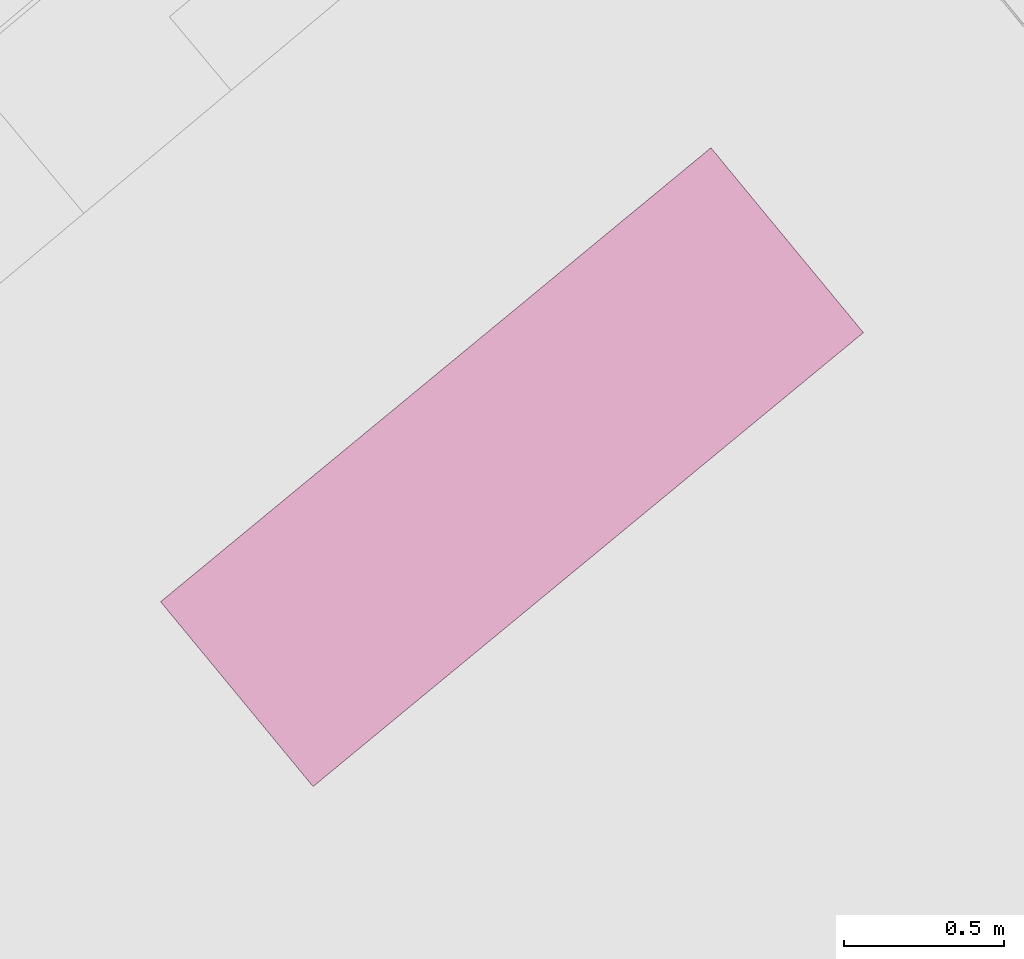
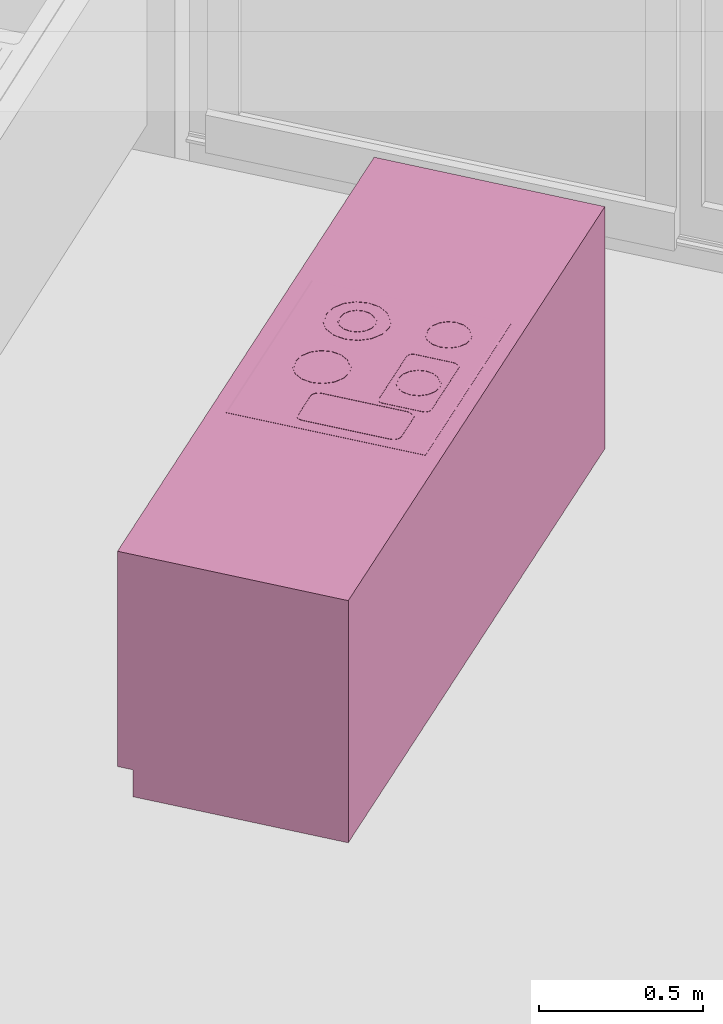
# One storey, part 60 of 61: 1 furniture element.
"""IFC4 building model written with IfcOpenShell, lengths in metres."""

from ifc_helpers import new_model, entity, si_unit, converted_unit, derived_unit, direction, frame, origin_with_axes, place, context, subcontext, project, spatial, polygons, source, transform, mapped, type_object, element, save


model = new_model("IFC4")

# Units and contexts
model_context = context("Model", 3, precision=1e-05, world=origin_with_axes(), true_north=direction((0.0, 1.0)))
body_context = subcontext(model_context, "Body", "Model", "MODEL_VIEW")
ifc_project = project(units=[si_unit("LENGTHUNIT", "METRE"), si_unit("AREAUNIT", "SQUARE_METRE"), si_unit("VOLUMEUNIT", "CUBIC_METRE"), converted_unit("PLANEANGLEUNIT", "DEGREE", entity("IfcPlaneAngleMeasure", 0.0174532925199), si_unit("PLANEANGLEUNIT", "RADIAN"), dimensions=[0, 0, 0, 0, 0, 0, 0]), converted_unit("TIMEUNIT", "Year", entity("IfcTimeMeasure", 31556926.0), si_unit("TIMEUNIT", "SECOND"), dimensions=[0, 0, 1, 0, 0, 0, 0]), si_unit("MASSUNIT", "GRAM", prefix="KILO"), si_unit("THERMODYNAMICTEMPERATUREUNIT", "DEGREE_CELSIUS"), si_unit("LUMINOUSINTENSITYUNIT", "LUMEN"), si_unit("ENERGYUNIT", "JOULE", prefix="MEGA"), derived_unit("THERMALCONDUCTANCEUNIT", [(si_unit("POWERUNIT", "WATT"), 1), (si_unit("LENGTHUNIT", "METRE"), -1), (si_unit("THERMODYNAMICTEMPERATUREUNIT", "KELVIN"), -1)]), derived_unit("SPECIFICHEATCAPACITYUNIT", [(si_unit("ENERGYUNIT", "JOULE"), 1), (si_unit("MASSUNIT", "GRAM", prefix="KILO"), -1), (si_unit("THERMODYNAMICTEMPERATUREUNIT", "KELVIN"), -1)]), derived_unit("MASSDENSITYUNIT", [(si_unit("MASSUNIT", "GRAM", prefix="KILO"), 1), (si_unit("VOLUMEUNIT", "CUBIC_METRE"), -1)])], contexts=[model_context])

# Site, building, storey, space
site_placement = place(None, frame((-0.00153261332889, -0.00661245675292, 0.0), z_axis=(0.0, 0.0, 1.0), x_axis=(1.0, 0.0, 0.0)))
site = spatial("IfcSite", under=ifc_project, at=site_placement, Name="Gelände", CompositionType="ELEMENT")
building_placement = place(site_placement, origin_with_axes())
building = spatial("IfcBuilding", under=site, at=building_placement, Name="Gebäude", CompositionType="ELEMENT")
storey_placement = place(building_placement, frame((0.0, 0.0, 5.7), z_axis=(0.0, 0.0, 1.0), x_axis=(1.0, 0.0, 0.0)))
storey = spatial("IfcBuildingStorey", under=building, at=storey_placement, Name="DG1", CompositionType="ELEMENT", Elevation=5.7)
space_placement = place(storey_placement, frame((12.8063322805, 20.3315828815, 0.22), z_axis=(0.0, 0.0, 1.0), x_axis=(-0.641209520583, 0.767365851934, 0.0)))
space = spatial("IfcSpace", under=storey, at=space_placement, CompositionType="ELEMENT", PredefinedType="NOTDEFINED")

# Furniture
furniture_type = type_object("IfcFurnitureType", Name="Konzeptküche 26", AssemblyPlace="NOTDEFINED", PredefinedType="NOTDEFINED")
shared_shape = source(origin_with_axes(), body_context, "Body", "Tessellation", [
    polygons([(0.451386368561, 0.0111886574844, 0.0), (2.6840690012, -0.00300580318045, 0.0), (2.6840690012, -0.00300580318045, 0.1), (0.451386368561, 0.0111886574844, 0.1), (0.455836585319, 0.711174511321, 0.0), (2.68851921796, 0.696980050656, 0.0), (2.68851921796, 0.696980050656, 0.1), (0.455836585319, 0.711174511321, 0.1)], [[[1, 2, 3, 4]], [[1, 5, 6, 2]], [[2, 6, 7, 3]], [[4, 3, 7, 8]], [[5, 1, 4, 8]], [[6, 5, 8, 7]]], closed=True),
    polygons([(0.451386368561, 0.0111886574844, 0.85), (2.6840690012, -0.00300580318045, 0.85), (2.6840690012, -0.00300580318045, 0.9), (0.451386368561, 0.0111886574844, 0.9), (0.456154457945, 0.76117350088, 0.85), (2.68883709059, 0.746979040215, 0.85), (2.68883709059, 0.746979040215, 0.9), (0.456154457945, 0.76117350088, 0.9)], [[[1, 2, 3, 4]], [[1, 5, 6, 2]], [[2, 6, 7, 3]], [[4, 3, 7, 8]], [[5, 1, 4, 8]], [[6, 5, 8, 7]]], closed=True),
    polygons([(0.451386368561, 0.0111886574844, 0.1), (2.6840690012, -0.00300580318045, 0.1), (2.6840690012, -0.00300580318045, 0.85), (0.451386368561, 0.0111886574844, 0.85), (0.456154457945, 0.76117350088, 0.1), (2.68883709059, 0.746979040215, 0.1), (2.68883709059, 0.746979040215, 0.85), (0.456154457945, 0.76117350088, 0.85)], [[[1, 2, 3, 4]], [[1, 5, 6, 2]], [[2, 6, 7, 3]], [[4, 3, 7, 8]], [[5, 1, 4, 8]], [[6, 5, 8, 7]]], closed=True),
    polygons([(2.01007115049, 0.701293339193, 0.9), (2.00593880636, 0.0513064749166, 0.9), (1.25595396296, 0.0560745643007, 0.9), (1.26008630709, 0.706061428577, 0.9), (2.01007115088, 0.70129333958, 0.9008), (2.00593880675, 0.0513064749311, 0.9008), (1.25595396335, 0.0560745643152, 0.9008), (1.26008630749, 0.706061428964, 0.9008), (2.00322248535, 0.694531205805, 0.901999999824), (1.99917667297, 0.0581551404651, 0.901999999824), (1.26280262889, 0.0628366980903, 0.901999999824), (1.26684844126, 0.69921276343, 0.901999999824)], [[[1, 2, 3, 4]], [[2, 1, 5, 6]], [[3, 2, 6, 7]], [[4, 3, 7, 8]], [[1, 4, 8, 5]], [[6, 5, 9, 10]], [[7, 6, 10, 11]], [[8, 7, 11, 12]], [[5, 8, 12, 9]], [[11, 10, 9, 12]]], closed=True),
    polygons([(1.95268579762, 0.208298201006, 0.902), (1.94734355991, 0.236077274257, 0.902), (1.94734355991, 0.236077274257, 0.903), (1.95268579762, 0.208298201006, 0.903), (1.9469907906, 0.180589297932, 0.902), (1.93112555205, 0.157168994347, 0.902), (1.9075054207, 0.141602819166, 0.902), (1.87972634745, 0.136260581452, 0.902), (1.85201744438, 0.141955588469, 0.902), (1.82859714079, 0.157820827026, 0.902), (1.81303096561, 0.181440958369, 0.902), (1.8076887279, 0.20922003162, 0.902), (1.81338373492, 0.236928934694, 0.902), (1.82924897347, 0.260349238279, 0.902), (1.85286910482, 0.275915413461, 0.902), (1.88064817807, 0.281257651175, 0.902), (1.90835708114, 0.275562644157, 0.902), (1.93177738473, 0.259697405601, 0.902), (1.94768589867, 0.208329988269, 0.902), (1.94271209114, 0.234193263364, 0.902), (1.92821944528, 0.256184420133, 0.902), (1.90641433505, 0.270955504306, 0.902), (1.8806163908, 0.276257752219, 0.902), (1.85475311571, 0.271283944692, 0.902), (1.83276195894, 0.256791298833, 0.902), (1.81799087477, 0.234986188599, 0.902), (1.81268862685, 0.209188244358, 0.902), (1.81766243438, 0.183324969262, 0.902), (1.83215508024, 0.161333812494, 0.902), (1.85396019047, 0.146562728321, 0.902), (1.87975813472, 0.141260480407, 0.902), (1.90562140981, 0.146234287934, 0.902), (1.92761256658, 0.160726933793, 0.902), (1.94238365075, 0.182532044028, 0.902), (1.93177738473, 0.259697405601, 0.903), (1.90835708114, 0.275562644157, 0.903), (1.88064817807, 0.281257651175, 0.903), (1.85286910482, 0.275915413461, 0.903), (1.82924897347, 0.260349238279, 0.903), (1.81338373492, 0.236928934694, 0.903), (1.8076887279, 0.20922003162, 0.903), (1.81303096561, 0.181440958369, 0.903), (1.82859714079, 0.157820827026, 0.903), (1.85201744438, 0.141955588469, 0.903), (1.87972634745, 0.136260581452, 0.903), (1.9075054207, 0.141602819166, 0.903), (1.93112555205, 0.157168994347, 0.903), (1.9469907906, 0.180589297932, 0.903), (1.94768589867, 0.208329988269, 0.903), (1.94238365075, 0.182532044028, 0.903), (1.92761256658, 0.160726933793, 0.903), (1.90562140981, 0.146234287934, 0.903), (1.87975813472, 0.141260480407, 0.903), (1.85396019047, 0.146562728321, 0.903), (1.83215508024, 0.161333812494, 0.903), (1.81766243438, 0.183324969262, 0.903), (1.81268862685, 0.209188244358, 0.903), (1.81799087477, 0.234986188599, 0.903), (1.83276195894, 0.256791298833, 0.903), (1.85475311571, 0.271283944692, 0.903), (1.8806163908, 0.276257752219, 0.903), (1.90641433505, 0.270955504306, 0.903), (1.92821944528, 0.256184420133, 0.903), (1.94271209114, 0.234193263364, 0.903)], [[[1, 2, 3, 4]], [[1, 5, 6, 7, 8, 9, 10, 11, 12, 13, 14, 15, 16, 17, 18, 2], [19, 20, 21, 22, 23, 24, 25, 26, 27, 28, 29, 30, 31, 32, 33, 34]], [[2, 18, 35, 3]], [[4, 3, 35, 36, 37, 38, 39, 40, 41, 42, 43, 44, 45, 46, 47, 48], [49, 50, 51, 52, 53, 54, 55, 56, 57, 58, 59, 60, 61, 62, 63, 64]], [[5, 1, 4, 48]], [[6, 5, 48, 47]], [[7, 6, 47, 46]], [[8, 7, 46, 45]], [[9, 8, 45, 44]], [[10, 9, 44, 43]], [[11, 10, 43, 42]], [[12, 11, 42, 41]], [[13, 12, 41, 40]], [[14, 13, 40, 39]], [[15, 14, 39, 38]], [[16, 15, 38, 37]], [[17, 16, 37, 36]], [[18, 17, 36, 35]], [[20, 19, 49, 64]], [[21, 20, 64, 63]], [[22, 21, 63, 62]], [[23, 22, 62, 61]], [[24, 23, 61, 60]], [[25, 24, 60, 59]], [[26, 25, 59, 58]], [[27, 26, 58, 57]], [[28, 27, 57, 56]], [[29, 28, 56, 55]], [[30, 29, 55, 54]], [[31, 30, 54, 53]], [[32, 31, 53, 52]], [[33, 32, 52, 51]], [[34, 33, 51, 50]], [[19, 34, 50, 49]]], closed=True),
    polygons([(1.9127590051, 0.495207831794, 0.902), (1.90833784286, 0.518197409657, 0.902), (1.90833784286, 0.518197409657, 0.903), (1.9127590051, 0.495207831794, 0.903), (1.90804589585, 0.472276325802, 0.902), (1.89491604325, 0.452894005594, 0.902), (1.87536834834, 0.44001165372, 0.902), (1.85237877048, 0.435590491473, 0.902), (1.82944726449, 0.440303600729, 0.902), (1.81006494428, 0.453433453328, 0.902), (1.7971825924, 0.472981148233, 0.902), (1.79276143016, 0.495970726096, 0.902), (1.79747453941, 0.518902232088, 0.902), (1.81060439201, 0.538284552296, 0.902), (1.83015208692, 0.551166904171, 0.902), (1.85314166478, 0.555588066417, 0.902), (1.87607317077, 0.550874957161, 0.902), (1.89545549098, 0.537745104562, 0.902), (1.90775910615, 0.495239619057, 0.902), (1.90370637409, 0.516313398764, 0.902), (1.89189755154, 0.534232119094, 0.902), (1.87413042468, 0.546267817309, 0.902), (1.85310987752, 0.550588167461, 0.902), (1.83203609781, 0.546535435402, 0.902), (1.81411737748, 0.53472661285, 0.902), (1.80208167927, 0.516959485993, 0.902), (1.79776132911, 0.495938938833, 0.902), (1.80181406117, 0.474865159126, 0.902), (1.81362288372, 0.456946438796, 0.902), (1.83139001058, 0.444910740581, 0.902), (1.85241055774, 0.440590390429, 0.902), (1.87348433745, 0.444643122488, 0.902), (1.89140305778, 0.45645194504, 0.902), (1.90343875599, 0.474219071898, 0.902), (1.89545549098, 0.537745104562, 0.903), (1.87607317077, 0.550874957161, 0.903), (1.85314166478, 0.555588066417, 0.903), (1.83015208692, 0.551166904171, 0.903), (1.81060439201, 0.538284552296, 0.903), (1.79747453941, 0.518902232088, 0.903), (1.79276143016, 0.495970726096, 0.903), (1.7971825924, 0.472981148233, 0.903), (1.81006494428, 0.453433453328, 0.903), (1.82944726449, 0.440303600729, 0.903), (1.85237877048, 0.435590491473, 0.903), (1.87536834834, 0.44001165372, 0.903), (1.89491604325, 0.452894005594, 0.903), (1.90804589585, 0.472276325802, 0.903), (1.90775910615, 0.495239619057, 0.903), (1.90343875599, 0.474219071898, 0.903), (1.89140305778, 0.45645194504, 0.903), (1.87348433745, 0.444643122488, 0.903), (1.85241055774, 0.440590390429, 0.903), (1.83139001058, 0.444910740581, 0.903), (1.81362288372, 0.456946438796, 0.903), (1.80181406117, 0.474865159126, 0.903), (1.79776132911, 0.495938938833, 0.903), (1.80208167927, 0.516959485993, 0.903), (1.81411737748, 0.53472661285, 0.903), (1.83203609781, 0.546535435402, 0.903), (1.85310987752, 0.550588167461, 0.903), (1.87413042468, 0.546267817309, 0.903), (1.89189755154, 0.534232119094, 0.903), (1.90370637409, 0.516313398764, 0.903)], [[[1, 2, 3, 4]], [[1, 5, 6, 7, 8, 9, 10, 11, 12, 13, 14, 15, 16, 17, 18, 2], [19, 20, 21, 22, 23, 24, 25, 26, 27, 28, 29, 30, 31, 32, 33, 34]], [[2, 18, 35, 3]], [[4, 3, 35, 36, 37, 38, 39, 40, 41, 42, 43, 44, 45, 46, 47, 48], [49, 50, 51, 52, 53, 54, 55, 56, 57, 58, 59, 60, 61, 62, 63, 64]], [[5, 1, 4, 48]], [[6, 5, 48, 47]], [[7, 6, 47, 46]], [[8, 7, 46, 45]], [[9, 8, 45, 44]], [[10, 9, 44, 43]], [[11, 10, 43, 42]], [[12, 11, 42, 41]], [[13, 12, 41, 40]], [[14, 13, 40, 39]], [[15, 14, 39, 38]], [[16, 15, 38, 37]], [[17, 16, 37, 36]], [[18, 17, 36, 35]], [[20, 19, 49, 64]], [[21, 20, 64, 63]], [[22, 21, 63, 62]], [[23, 22, 62, 61]], [[24, 23, 61, 60]], [[25, 24, 60, 59]], [[26, 25, 59, 58]], [[27, 26, 58, 57]], [[28, 27, 57, 56]], [[29, 28, 56, 55]], [[30, 29, 55, 54]], [[31, 30, 54, 53]], [[32, 31, 53, 52]], [[33, 32, 52, 51]], [[34, 33, 51, 50]], [[19, 34, 50, 49]]], closed=True),
    polygons([(1.95775809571, 0.494921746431, 0.902), (1.95002106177, 0.535153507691, 0.902), (1.95002106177, 0.535153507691, 0.903), (1.95775809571, 0.494921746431, 0.903), (1.94951015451, 0.454791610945, 0.902), (1.92653291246, 0.420872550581, 0.902), (1.89232444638, 0.3983284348, 0.902), (1.85209268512, 0.39059140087, 0.902), (1.81196254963, 0.398839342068, 0.902), (1.77804348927, 0.421816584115, 0.902), (1.75549937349, 0.456025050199, 0.902), (1.74776233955, 0.496256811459, 0.902), (1.75601028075, 0.536386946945, 0.902), (1.7789875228, 0.57030600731, 0.902), (1.81319598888, 0.59285012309, 0.902), (1.85342775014, 0.60058715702, 0.902), (1.89355788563, 0.592339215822, 0.902), (1.92747694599, 0.569361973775, 0.902), (1.95275819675, 0.494953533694, 0.902), (1.94538959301, 0.533269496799, 0.902), (1.92391900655, 0.565848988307, 0.902), (1.89161513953, 0.587732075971, 0.902), (1.85339596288, 0.595587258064, 0.902), (1.81507999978, 0.588218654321, 0.902), (1.78250050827, 0.566748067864, 0.902), (1.7606174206, 0.53444420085, 0.902), (1.75276223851, 0.496225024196, 0.902), (1.76013084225, 0.457909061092, 0.902), (1.78160142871, 0.425329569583, 0.902), (1.81390529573, 0.403446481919, 0.902), (1.85212447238, 0.395591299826, 0.902), (1.89044043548, 0.402959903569, 0.902), (1.92301992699, 0.424430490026, 0.902), (1.94490301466, 0.456734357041, 0.902), (1.92747694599, 0.569361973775, 0.903), (1.89355788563, 0.592339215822, 0.903), (1.85342775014, 0.60058715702, 0.903), (1.81319598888, 0.59285012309, 0.903), (1.7789875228, 0.57030600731, 0.903), (1.75601028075, 0.536386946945, 0.903), (1.74776233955, 0.496256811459, 0.903), (1.75549937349, 0.456025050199, 0.903), (1.77804348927, 0.421816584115, 0.903), (1.81196254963, 0.398839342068, 0.903), (1.85209268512, 0.39059140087, 0.903), (1.89232444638, 0.3983284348, 0.903), (1.92653291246, 0.420872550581, 0.903), (1.94951015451, 0.454791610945, 0.903), (1.95275819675, 0.494953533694, 0.903), (1.94490301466, 0.456734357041, 0.903), (1.92301992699, 0.424430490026, 0.903), (1.89044043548, 0.402959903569, 0.903), (1.85212447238, 0.395591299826, 0.903), (1.81390529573, 0.403446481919, 0.903), (1.78160142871, 0.425329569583, 0.903), (1.76013084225, 0.457909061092, 0.903), (1.75276223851, 0.496225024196, 0.903), (1.7606174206, 0.53444420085, 0.903), (1.78250050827, 0.566748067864, 0.903), (1.81507999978, 0.588218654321, 0.903), (1.85339596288, 0.595587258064, 0.903), (1.89161513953, 0.587732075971, 0.903), (1.92391900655, 0.565848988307, 0.903), (1.94538959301, 0.533269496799, 0.903)], [[[1, 2, 3, 4]], [[1, 5, 6, 7, 8, 9, 10, 11, 12, 13, 14, 15, 16, 17, 18, 2], [19, 20, 21, 22, 23, 24, 25, 26, 27, 28, 29, 30, 31, 32, 33, 34]], [[2, 18, 35, 3]], [[4, 3, 35, 36, 37, 38, 39, 40, 41, 42, 43, 44, 45, 46, 47, 48], [49, 50, 51, 52, 53, 54, 55, 56, 57, 58, 59, 60, 61, 62, 63, 64]], [[5, 1, 4, 48]], [[6, 5, 48, 47]], [[7, 6, 47, 46]], [[8, 7, 46, 45]], [[9, 8, 45, 44]], [[10, 9, 44, 43]], [[11, 10, 43, 42]], [[12, 11, 42, 41]], [[13, 12, 41, 40]], [[14, 13, 40, 39]], [[15, 14, 39, 38]], [[16, 15, 38, 37]], [[17, 16, 37, 36]], [[18, 17, 36, 35]], [[20, 19, 49, 64]], [[21, 20, 64, 63]], [[22, 21, 63, 62]], [[23, 22, 62, 61]], [[24, 23, 61, 60]], [[25, 24, 60, 59]], [[26, 25, 59, 58]], [[27, 26, 58, 57]], [[28, 27, 57, 56]], [[29, 28, 56, 55]], [[30, 29, 55, 54]], [[31, 30, 54, 53]], [[32, 31, 53, 52]], [[33, 32, 52, 51]], [[34, 33, 51, 50]], [[19, 34, 50, 49]]], closed=True),
    polygons([(1.67867067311, 0.206790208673, 0.902), (1.67351265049, 0.233611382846, 0.902), (1.67351265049, 0.233611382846, 0.903), (1.67867067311, 0.206790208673, 0.903), (1.67317204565, 0.180036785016, 0.902), (1.65785388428, 0.157424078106, 0.902), (1.63504824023, 0.142394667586, 0.902), (1.60822706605, 0.137236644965, 0.902), (1.5814736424, 0.142735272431, 0.902), (1.55886093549, 0.158053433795, 0.902), (1.54383152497, 0.180859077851, 0.902), (1.53867350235, 0.207680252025, 0.902), (1.54417212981, 0.234433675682, 0.902), (1.55949029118, 0.257046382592, 0.902), (1.58229593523, 0.272075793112, 0.902), (1.60911710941, 0.277233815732, 0.902), (1.63587053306, 0.271735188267, 0.902), (1.65848323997, 0.256417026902, 0.902), (1.67367077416, 0.206821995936, 0.902), (1.66888118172, 0.231727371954, 0.902), (1.65492530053, 0.252904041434, 0.902), (1.63392778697, 0.267128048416, 0.902), (1.60908532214, 0.272233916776, 0.902), (1.58417994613, 0.267444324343, 0.902), (1.56300327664, 0.253488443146, 0.902), (1.54877926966, 0.232490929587, 0.902), (1.5436734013, 0.207648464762, 0.902), (1.54846299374, 0.182743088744, 0.902), (1.56241887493, 0.161566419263, 0.902), (1.58341638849, 0.147342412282, 0.902), (1.60825885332, 0.142236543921, 0.902), (1.63316422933, 0.147026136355, 0.902), (1.65434089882, 0.160982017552, 0.902), (1.6685649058, 0.181979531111, 0.902), (1.65848323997, 0.256417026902, 0.903), (1.63587053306, 0.271735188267, 0.903), (1.60911710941, 0.277233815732, 0.903), (1.58229593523, 0.272075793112, 0.903), (1.55949029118, 0.257046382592, 0.903), (1.54417212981, 0.234433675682, 0.903), (1.53867350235, 0.207680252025, 0.903), (1.54383152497, 0.180859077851, 0.903), (1.55886093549, 0.158053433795, 0.903), (1.5814736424, 0.142735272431, 0.903), (1.60822706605, 0.137236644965, 0.903), (1.63504824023, 0.142394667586, 0.903), (1.65785388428, 0.157424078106, 0.903), (1.67317204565, 0.180036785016, 0.903), (1.67367077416, 0.206821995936, 0.903), (1.6685649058, 0.181979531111, 0.903), (1.65434089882, 0.160982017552, 0.903), (1.63316422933, 0.147026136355, 0.903), (1.60825885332, 0.142236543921, 0.903), (1.58341638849, 0.147342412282, 0.903), (1.56241887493, 0.161566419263, 0.903), (1.54846299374, 0.182743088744, 0.903), (1.5436734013, 0.207648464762, 0.903), (1.54877926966, 0.232490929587, 0.903), (1.56300327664, 0.253488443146, 0.903), (1.58417994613, 0.267444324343, 0.903), (1.60908532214, 0.272233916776, 0.903), (1.63392778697, 0.267128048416, 0.903), (1.65492530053, 0.252904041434, 0.903), (1.66888118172, 0.231727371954, 0.903)], [[[1, 2, 3, 4]], [[1, 5, 6, 7, 8, 9, 10, 11, 12, 13, 14, 15, 16, 17, 18, 2], [19, 20, 21, 22, 23, 24, 25, 26, 27, 28, 29, 30, 31, 32, 33, 34]], [[2, 18, 35, 3]], [[4, 3, 35, 36, 37, 38, 39, 40, 41, 42, 43, 44, 45, 46, 47, 48], [49, 50, 51, 52, 53, 54, 55, 56, 57, 58, 59, 60, 61, 62, 63, 64]], [[5, 1, 4, 48]], [[6, 5, 48, 47]], [[7, 6, 47, 46]], [[8, 7, 46, 45]], [[9, 8, 45, 44]], [[10, 9, 44, 43]], [[11, 10, 43, 42]], [[12, 11, 42, 41]], [[13, 12, 41, 40]], [[14, 13, 40, 39]], [[15, 14, 39, 38]], [[16, 15, 38, 37]], [[17, 16, 37, 36]], [[18, 17, 36, 35]], [[20, 19, 49, 64]], [[21, 20, 64, 63]], [[22, 21, 63, 62]], [[23, 22, 62, 61]], [[24, 23, 61, 60]], [[25, 24, 60, 59]], [[26, 25, 59, 58]], [[27, 26, 58, 57]], [[28, 27, 57, 56]], [[29, 28, 56, 55]], [[30, 29, 55, 54]], [[31, 30, 54, 53]], [[32, 31, 53, 52]], [[33, 32, 52, 51]], [[34, 33, 51, 50]], [[19, 34, 50, 49]]], closed=True),
    polygons([(1.67698381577, 0.511657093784, 0.902), (1.6703520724, 0.546141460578, 0.902), (1.6703520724, 0.546141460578, 0.903), (1.67698381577, 0.511657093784, 0.903), (1.66991415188, 0.477259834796, 0.902), (1.65021937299, 0.448186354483, 0.902), (1.62089783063, 0.428862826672, 0.902), (1.58641346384, 0.422231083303, 0.902), (1.55201620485, 0.429300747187, 0.902), (1.52294272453, 0.448995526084, 0.902), (1.50361919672, 0.478317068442, 0.902), (1.49698745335, 0.512801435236, 0.902), (1.50405711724, 0.547198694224, 0.902), (1.52375189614, 0.576272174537, 0.902), (1.55307343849, 0.595595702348, 0.902), (1.58755780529, 0.602227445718, 0.902), (1.62195506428, 0.595157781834, 0.902), (1.65102854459, 0.575463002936, 0.902), (1.67198391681, 0.511688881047, 0.902), (1.66572060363, 0.544257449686, 0.902), (1.64747060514, 0.571950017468, 0.902), (1.62001231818, 0.590550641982, 0.902), (1.58752601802, 0.597227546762, 0.902), (1.55495744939, 0.590964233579, 0.902), (1.5272648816, 0.572714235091, 0.902), (1.50866425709, 0.545255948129, 0.902), (1.50198735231, 0.512769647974, 0.902), (1.50825066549, 0.480201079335, 0.902), (1.52650066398, 0.452508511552, 0.902), (1.55395895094, 0.433907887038, 0.902), (1.5864452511, 0.427230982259, 0.902), (1.61901381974, 0.433494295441, 0.902), (1.64670638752, 0.451744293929, 0.902), (1.66530701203, 0.479202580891, 0.902), (1.65102854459, 0.575463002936, 0.903), (1.62195506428, 0.595157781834, 0.903), (1.58755780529, 0.602227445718, 0.903), (1.55307343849, 0.595595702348, 0.903), (1.52375189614, 0.576272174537, 0.903), (1.50405711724, 0.547198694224, 0.903), (1.49698745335, 0.512801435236, 0.903), (1.50361919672, 0.478317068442, 0.903), (1.52294272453, 0.448995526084, 0.903), (1.55201620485, 0.429300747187, 0.903), (1.58641346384, 0.422231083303, 0.903), (1.62089783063, 0.428862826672, 0.903), (1.65021937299, 0.448186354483, 0.903), (1.66991415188, 0.477259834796, 0.903), (1.67198391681, 0.511688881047, 0.903), (1.66530701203, 0.479202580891, 0.903), (1.64670638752, 0.451744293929, 0.903), (1.61901381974, 0.433494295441, 0.903), (1.5864452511, 0.427230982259, 0.903), (1.55395895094, 0.433907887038, 0.903), (1.52650066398, 0.452508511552, 0.903), (1.50825066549, 0.480201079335, 0.903), (1.50198735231, 0.512769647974, 0.903), (1.50866425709, 0.545255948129, 0.903), (1.5272648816, 0.572714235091, 0.903), (1.55495744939, 0.590964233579, 0.903), (1.58752601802, 0.597227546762, 0.903), (1.62001231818, 0.590550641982, 0.903), (1.64747060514, 0.571950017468, 0.903), (1.66572060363, 0.544257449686, 0.903)], [[[1, 2, 3, 4]], [[1, 5, 6, 7, 8, 9, 10, 11, 12, 13, 14, 15, 16, 17, 18, 2], [19, 20, 21, 22, 23, 24, 25, 26, 27, 28, 29, 30, 31, 32, 33, 34]], [[2, 18, 35, 3]], [[4, 3, 35, 36, 37, 38, 39, 40, 41, 42, 43, 44, 45, 46, 47, 48], [49, 50, 51, 52, 53, 54, 55, 56, 57, 58, 59, 60, 61, 62, 63, 64]], [[5, 1, 4, 48]], [[6, 5, 48, 47]], [[7, 6, 47, 46]], [[8, 7, 46, 45]], [[9, 8, 45, 44]], [[10, 9, 44, 43]], [[11, 10, 43, 42]], [[12, 11, 42, 41]], [[13, 12, 41, 40]], [[14, 13, 40, 39]], [[15, 14, 39, 38]], [[16, 15, 38, 37]], [[17, 16, 37, 36]], [[18, 17, 36, 35]], [[20, 19, 49, 64]], [[21, 20, 64, 63]], [[22, 21, 63, 62]], [[23, 22, 62, 61]], [[24, 23, 61, 60]], [[25, 24, 60, 59]], [[26, 25, 59, 58]], [[27, 26, 58, 57]], [[28, 27, 57, 56]], [[29, 28, 56, 55]], [[30, 29, 55, 54]], [[31, 30, 54, 53]], [[32, 31, 53, 52]], [[33, 32, 52, 51]], [[34, 33, 51, 50]], [[19, 34, 50, 49]]], closed=True),
    polygons([(1.72815115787, 0.294201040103, 0.902), (1.49030841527, 0.295713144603, 0.902), (1.49030841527, 0.295713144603, 0.903), (1.72815115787, 0.294201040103, 0.903), (1.73655937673, 0.292472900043, 0.902), (1.74366622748, 0.287658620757, 0.902), (1.7483897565, 0.280491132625, 0.902), (1.75001084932, 0.272061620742, 0.902), (1.74917517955, 0.140617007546, 0.902), (1.74744703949, 0.132208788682, 0.902), (1.7426327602, 0.125101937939, 0.902), (1.73546527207, 0.120378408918, 0.902), (1.72703576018, 0.118757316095, 0.902), (1.48919301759, 0.120269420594, 0.902), (1.48078479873, 0.121997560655, 0.902), (1.47367794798, 0.126811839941, 0.902), (1.46895441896, 0.133979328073, 0.902), (1.46733332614, 0.142408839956, 0.902), (1.46816899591, 0.273853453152, 0.902), (1.46989713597, 0.282261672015, 0.902), (1.47471141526, 0.289368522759, 0.902), (1.48187890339, 0.294092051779, 0.902), (1.72406760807, 0.123776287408, 0.902), (1.73173080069, 0.125250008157, 0.902), (1.738246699, 0.129544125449, 0.902), (1.74262331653, 0.136004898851, 0.902), (1.74419435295, 0.143648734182, 0.902), (1.74499187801, 0.269093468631, 0.902), (1.74351815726, 0.276756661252, 0.902), (1.73922403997, 0.283272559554, 0.902), (1.73276326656, 0.287649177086, 0.902), (1.72511943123, 0.289220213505, 0.902), (1.49327656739, 0.290694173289, 0.902), (1.48561337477, 0.28922045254, 0.902), (1.47909747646, 0.284926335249, 0.902), (1.47472085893, 0.278465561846, 0.902), (1.47314982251, 0.270821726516, 0.902), (1.47235229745, 0.145376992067, 0.902), (1.4738260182, 0.137713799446, 0.902), (1.47812013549, 0.131197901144, 0.902), (1.4845809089, 0.126821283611, 0.902), (1.49222474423, 0.125250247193, 0.902), (1.48187890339, 0.294092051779, 0.903), (1.47471141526, 0.289368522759, 0.903), (1.46989713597, 0.282261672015, 0.903), (1.46816899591, 0.273853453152, 0.903), (1.46733332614, 0.142408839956, 0.903), (1.46895441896, 0.133979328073, 0.903), (1.47367794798, 0.126811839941, 0.903), (1.48078479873, 0.121997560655, 0.903), (1.48919301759, 0.120269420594, 0.903), (1.72703576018, 0.118757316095, 0.903), (1.73546527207, 0.120378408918, 0.903), (1.7426327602, 0.125101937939, 0.903), (1.74744703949, 0.132208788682, 0.903), (1.74917517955, 0.140617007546, 0.903), (1.75001084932, 0.272061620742, 0.903), (1.7483897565, 0.280491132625, 0.903), (1.74366622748, 0.287658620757, 0.903), (1.73655937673, 0.292472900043, 0.903), (1.72406760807, 0.123776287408, 0.903), (1.49222474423, 0.125250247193, 0.903), (1.4845809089, 0.126821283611, 0.903), (1.47812013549, 0.131197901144, 0.903), (1.4738260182, 0.137713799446, 0.903), (1.47235229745, 0.145376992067, 0.903), (1.47314982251, 0.270821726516, 0.903), (1.47472085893, 0.278465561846, 0.903), (1.47909747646, 0.284926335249, 0.903), (1.48561337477, 0.28922045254, 0.903), (1.49327656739, 0.290694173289, 0.903), (1.72511943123, 0.289220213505, 0.903), (1.73276326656, 0.287649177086, 0.903), (1.73922403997, 0.283272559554, 0.903), (1.74351815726, 0.276756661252, 0.903), (1.74499187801, 0.269093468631, 0.903), (1.74419435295, 0.143648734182, 0.903), (1.74262331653, 0.136004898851, 0.903), (1.738246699, 0.129544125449, 0.903), (1.73173080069, 0.125250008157, 0.903)], [[[1, 2, 3, 4]], [[1, 5, 6, 7, 8, 9, 10, 11, 12, 13, 14, 15, 16, 17, 18, 19, 20, 21, 22, 2], [23, 24, 25, 26, 27, 28, 29, 30, 31, 32, 33, 34, 35, 36, 37, 38, 39, 40, 41, 42]], [[2, 22, 43, 3]], [[4, 3, 43, 44, 45, 46, 47, 48, 49, 50, 51, 52, 53, 54, 55, 56, 57, 58, 59, 60], [61, 62, 63, 64, 65, 66, 67, 68, 69, 70, 71, 72, 73, 74, 75, 76, 77, 78, 79, 80]], [[5, 1, 4, 60]], [[6, 5, 60, 59]], [[7, 6, 59, 58]], [[8, 7, 58, 57]], [[9, 8, 57, 56]], [[10, 9, 56, 55]], [[11, 10, 55, 54]], [[12, 11, 54, 53]], [[13, 12, 53, 52]], [[14, 13, 52, 51]], [[15, 14, 51, 50]], [[16, 15, 50, 49]], [[17, 16, 49, 48]], [[18, 17, 48, 47]], [[19, 18, 47, 46]], [[20, 19, 46, 45]], [[21, 20, 45, 44]], [[22, 21, 44, 43]], [[24, 23, 61, 80]], [[25, 24, 80, 79]], [[26, 25, 79, 78]], [[27, 26, 78, 77]], [[28, 27, 77, 76]], [[29, 28, 76, 75]], [[30, 29, 75, 74]], [[31, 30, 74, 73]], [[32, 31, 73, 72]], [[33, 32, 72, 71]], [[34, 33, 71, 70]], [[35, 34, 70, 69]], [[36, 35, 69, 68]], [[37, 36, 68, 67]], [[38, 37, 67, 66]], [[39, 38, 66, 65]], [[40, 39, 65, 64]], [[41, 40, 64, 63]], [[42, 41, 63, 62]], [[23, 42, 62, 61]]], closed=True),
    polygons([(1.45676176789, 0.182500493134, 0.902), (1.45859271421, 0.470494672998, 0.902), (1.45859271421, 0.470494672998, 0.903), (1.45676176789, 0.182500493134, 0.903), (1.45471942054, 0.172563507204, 0.902), (1.44902981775, 0.16416450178, 0.902), (1.44055914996, 0.158582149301, 0.902), (1.43059699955, 0.156666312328, 0.902), (1.3225991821, 0.157352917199, 0.902), (1.31266219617, 0.159395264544, 0.902), (1.30426319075, 0.165084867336, 0.902), (1.29868083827, 0.173555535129, 0.902), (1.2967650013, 0.183517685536, 0.902), (1.29859594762, 0.4715118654, 0.902), (1.30063829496, 0.48144885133, 0.902), (1.30632789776, 0.489847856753, 0.902), (1.31479856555, 0.495430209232, 0.902), (1.32476071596, 0.497346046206, 0.902), (1.4327585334, 0.496659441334, 0.902), (1.44269551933, 0.49461709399, 0.902), (1.45109452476, 0.488927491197, 0.902), (1.45667687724, 0.480456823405, 0.902), (1.42562888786, 0.161697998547, 0.902), (1.43559103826, 0.16361383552, 0.902), (1.44406170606, 0.169196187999, 0.902), (1.44975130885, 0.177595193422, 0.902), (1.45179365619, 0.187532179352, 0.902), (1.45356102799, 0.465526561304, 0.902), (1.45164519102, 0.475488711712, 0.902), (1.44606283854, 0.483959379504, 0.902), (1.43766383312, 0.489648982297, 0.902), (1.42772684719, 0.491691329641, 0.902), (1.32972882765, 0.492314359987, 0.902), (1.31976667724, 0.490398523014, 0.902), (1.31129600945, 0.484816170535, 0.902), (1.30560640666, 0.476417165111, 0.902), (1.30356405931, 0.466480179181, 0.902), (1.30179668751, 0.188485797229, 0.902), (1.30371252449, 0.178523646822, 0.902), (1.30929487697, 0.17005297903, 0.902), (1.31769388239, 0.164363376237, 0.902), (1.32763086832, 0.162321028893, 0.902), (1.45667687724, 0.480456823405, 0.903), (1.45109452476, 0.488927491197, 0.903), (1.44269551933, 0.49461709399, 0.903), (1.4327585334, 0.496659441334, 0.903), (1.32476071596, 0.497346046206, 0.903), (1.31479856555, 0.495430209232, 0.903), (1.30632789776, 0.489847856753, 0.903), (1.30063829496, 0.48144885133, 0.903), (1.29859594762, 0.4715118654, 0.903), (1.2967650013, 0.183517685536, 0.903), (1.29868083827, 0.173555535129, 0.903), (1.30426319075, 0.165084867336, 0.903), (1.31266219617, 0.159395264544, 0.903), (1.3225991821, 0.157352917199, 0.903), (1.43059699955, 0.156666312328, 0.903), (1.44055914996, 0.158582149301, 0.903), (1.44902981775, 0.16416450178, 0.903), (1.45471942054, 0.172563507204, 0.903), (1.42562888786, 0.161697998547, 0.903), (1.32763086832, 0.162321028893, 0.903), (1.31769388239, 0.164363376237, 0.903), (1.30929487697, 0.17005297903, 0.903), (1.30371252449, 0.178523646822, 0.903), (1.30179668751, 0.188485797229, 0.903), (1.30356405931, 0.466480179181, 0.903), (1.30560640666, 0.476417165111, 0.903), (1.31129600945, 0.484816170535, 0.903), (1.31976667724, 0.490398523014, 0.903), (1.32972882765, 0.492314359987, 0.903), (1.42772684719, 0.491691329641, 0.903), (1.43766383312, 0.489648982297, 0.903), (1.44606283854, 0.483959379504, 0.903), (1.45164519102, 0.475488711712, 0.903), (1.45356102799, 0.465526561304, 0.903), (1.45179365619, 0.187532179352, 0.903), (1.44975130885, 0.177595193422, 0.903), (1.44406170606, 0.169196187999, 0.903), (1.43559103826, 0.16361383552, 0.903)], [[[1, 2, 3, 4]], [[1, 5, 6, 7, 8, 9, 10, 11, 12, 13, 14, 15, 16, 17, 18, 19, 20, 21, 22, 2], [23, 24, 25, 26, 27, 28, 29, 30, 31, 32, 33, 34, 35, 36, 37, 38, 39, 40, 41, 42]], [[2, 22, 43, 3]], [[4, 3, 43, 44, 45, 46, 47, 48, 49, 50, 51, 52, 53, 54, 55, 56, 57, 58, 59, 60], [61, 62, 63, 64, 65, 66, 67, 68, 69, 70, 71, 72, 73, 74, 75, 76, 77, 78, 79, 80]], [[5, 1, 4, 60]], [[6, 5, 60, 59]], [[7, 6, 59, 58]], [[8, 7, 58, 57]], [[9, 8, 57, 56]], [[10, 9, 56, 55]], [[11, 10, 55, 54]], [[12, 11, 54, 53]], [[13, 12, 53, 52]], [[14, 13, 52, 51]], [[15, 14, 51, 50]], [[16, 15, 50, 49]], [[17, 16, 49, 48]], [[18, 17, 48, 47]], [[19, 18, 47, 46]], [[20, 19, 46, 45]], [[21, 20, 45, 44]], [[22, 21, 44, 43]], [[24, 23, 61, 80]], [[25, 24, 80, 79]], [[26, 25, 79, 78]], [[27, 26, 78, 77]], [[28, 27, 77, 76]], [[29, 28, 76, 75]], [[30, 29, 75, 74]], [[31, 30, 74, 73]], [[32, 31, 73, 72]], [[33, 32, 72, 71]], [[34, 33, 71, 70]], [[35, 34, 70, 69]], [[36, 35, 69, 68]], [[37, 36, 68, 67]], [[38, 37, 67, 66]], [[39, 38, 66, 65]], [[40, 39, 65, 64]], [[41, 40, 64, 63]], [[42, 41, 63, 62]], [[23, 42, 62, 61]]], closed=True),
])
furniture_placement = place(space_placement, frame((3.66181901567, 3.68306285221, 0.0), z_axis=(0.0, 0.0, 1.0), x_axis=(0.0, -1.0, 0.0)))
element("IfcFurniture", 1, at=furniture_placement, inside=space, type_object=furniture_type, Name="Objekt-0002", PredefinedType="NOTDEFINED", context=body_context, shape_type="MappedRepresentation", body=[
    mapped(shared_shape, transform((0.0, 0.0, 0.0))),
])

save(model, "model.ifc")
